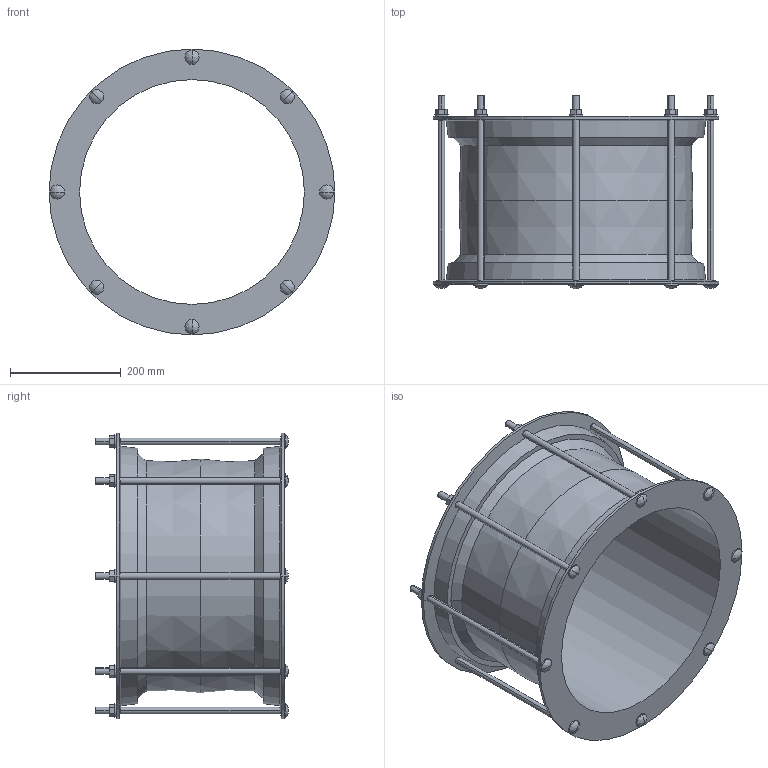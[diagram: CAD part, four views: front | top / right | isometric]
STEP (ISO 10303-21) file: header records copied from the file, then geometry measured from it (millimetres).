
FILE_DESCRIPTION((''),'2;1');
FILE_NAME('MAXIFIT_386_403','2018-12-18T',('mfairey'),('Glynwed Pipe Systems'),'CREO PARAMETRIC BY PTC INC, 2016130','CREO PARAMETRIC BY PTC INC, 2016130','');
FILE_SCHEMA(('CONFIG_CONTROL_DESIGN'));
Length unit declared in the file: millimetre
Products named in the file (1): MAXIFIT_386_403
Bounding box: 515 x 348 x 515 mm (x, y, z)
Volume: 6029572.6 mm3; surface area: 1161292.3 mm2
Topology: 1 solids, 1 shells, 178 faces, 432 edges, 270 vertices
Faces by surface type: plane 76, cylinder 70, cone 16, bspline 16
Entity records: 6298 total; most frequent: CARTESIAN_POINT 2146, DIRECTION 842, ORIENTED_EDGE 832, EDGE_CURVE 416, AXIS2_PLACEMENT_3D 304, VERTEX_POINT 270, VECTOR 234, LINE 234
